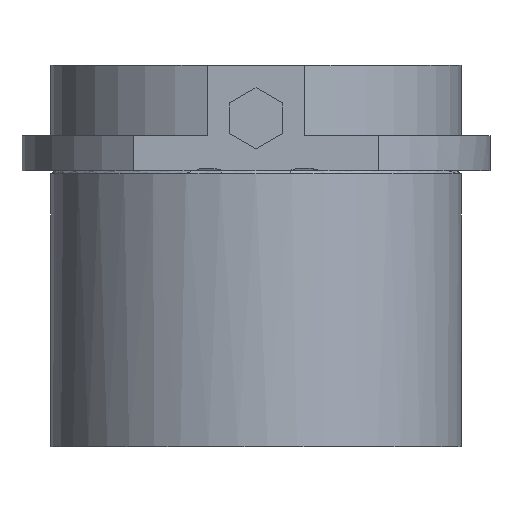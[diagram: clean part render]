
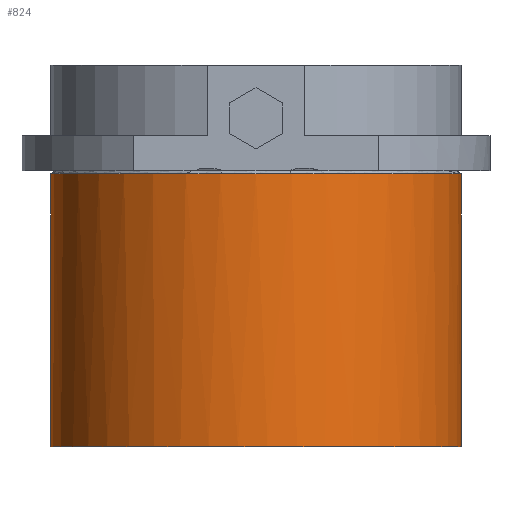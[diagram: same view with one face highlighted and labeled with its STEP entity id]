
A CAD part, front view. The second image highlights one B-rep face of the part: STEP entity #824.
In plain terms, the highlighted cylindrical face has radius 35 mm (diameter 70 mm), a partial arc.
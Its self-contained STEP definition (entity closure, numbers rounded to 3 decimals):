
#456=CARTESIAN_POINT('Control Point',(-35.,0.,-47.)) ;
#457=CARTESIAN_POINT('Control Point',(-35.,-3.188,-47.)) ;
#458=CARTESIAN_POINT('Control Point',(-34.637,-6.376,-47.)) ;
#459=CARTESIAN_POINT('Control Point',(-33.911,-9.509,-47.)) ;
#460=CARTESIAN_POINT('Control Point',(-31.758,-15.555,-47.)) ;
#461=CARTESIAN_POINT('Control Point',(-28.302,-20.962,-47.)) ;
#462=CARTESIAN_POINT('Control Point',(-26.272,-23.456,-47.)) ;
#463=CARTESIAN_POINT('Control Point',(-21.679,-27.938,-47.)) ;
#464=CARTESIAN_POINT('Control Point',(-16.197,-31.274,-47.)) ;
#465=CARTESIAN_POINT('Control Point',(-13.276,-32.621,-47.)) ;
#466=CARTESIAN_POINT('Control Point',(-7.18,-34.626,-47.)) ;
#467=CARTESIAN_POINT('Control Point',(-0.79,-35.21,-47.)) ;
#468=CARTESIAN_POINT('Control Point',(2.426,-35.135,-47.)) ;
#469=CARTESIAN_POINT('Control Point',(8.782,-34.255,-47.)) ;
#470=CARTESIAN_POINT('Control Point',(14.778,-31.968,-47.)) ;
#471=CARTESIAN_POINT('Control Point',(17.633,-30.487,-47.)) ;
#472=CARTESIAN_POINT('Control Point',(22.955,-26.9,-47.)) ;
#473=CARTESIAN_POINT('Control Point',(27.334,-22.209,-47.)) ;
#474=CARTESIAN_POINT('Control Point',(29.246,-19.623,-47.)) ;
#475=CARTESIAN_POINT('Control Point',(32.284,-14.345,-47.)) ;
#476=CARTESIAN_POINT('Control Point',(34.122,-8.548,-47.)) ;
#477=CARTESIAN_POINT('Control Point',(34.707,-5.725,-47.)) ;
#478=CARTESIAN_POINT('Control Point',(35.,-2.863,-47.)) ;
#479=CARTESIAN_POINT('Control Point',(35.,0.,-47.)) ;
#480=CARTESIAN_POINT('Vertex',(-35.,0.,-47.)) ;
#482=CARTESIAN_POINT('Vertex',(35.,0.,-47.)) ;
#794=CARTESIAN_POINT('Axis2P3D Location',(0.,0.,18.)) ;
#799=CARTESIAN_POINT('Line Origine',(35.,0.,18.)) ;
#803=CARTESIAN_POINT('Vertex',(35.,0.,-0.5)) ;
#806=CARTESIAN_POINT('Axis2P3D Location',(0.,0.,-0.5)) ;
#810=CARTESIAN_POINT('Vertex',(-35.,0.,-0.5)) ;
#813=CARTESIAN_POINT('Line Origine',(-35.,0.,18.)) ;
#795=DIRECTION('Axis2P3D Direction',(0.,0.,-1.)) ;
#796=DIRECTION('Axis2P3D XDirection',(1.,0.,0.)) ;
#800=DIRECTION('Vector Direction',(0.,0.,-1.)) ;
#807=DIRECTION('Axis2P3D Direction',(0.,0.,-1.)) ;
#814=DIRECTION('Vector Direction',(0.,0.,-1.)) ;
#797=AXIS2_PLACEMENT_3D('Cylinder Axis2P3D',#794,#795,#796) ;
#808=AXIS2_PLACEMENT_3D('Circle Axis2P3D',#806,#807,$) ;
#819=ORIENTED_EDGE('',*,*,#805,.T.) ;
#820=ORIENTED_EDGE('',*,*,#812,.F.) ;
#821=ORIENTED_EDGE('',*,*,#817,.T.) ;
#822=ORIENTED_EDGE('',*,*,#484,.T.) ;
#801=VECTOR('Line Direction',#800,1.) ;
#815=VECTOR('Line Direction',#814,1.) ;
#824=ADVANCED_FACE('740-48',(#823),#798,.T.) ;
#455=B_SPLINE_CURVE_WITH_KNOTS('',5,(#456,#457,#458,#459,#460,#461,#462,#463,#464,#465,#466,#467,#468,#469,#470,#471,#472,#473,#474,#475,#476,#477,#478,#479),.UNSPECIFIED.,.F.,.U.,(6,3,3,3,3,3,3,6),(0.,22.543,45.086,67.629,90.172,112.716,135.259,155.5),.UNSPECIFIED.) ;
#809=CIRCLE('generated circle',#808,35.) ;
#798=CYLINDRICAL_SURFACE('generated cylinder',#797,35.) ;
#484=EDGE_CURVE('',#481,#483,#455,.T.) ;
#805=EDGE_CURVE('',#483,#804,#802,.F.) ;
#812=EDGE_CURVE('',#811,#804,#809,.F.) ;
#817=EDGE_CURVE('',#811,#481,#816,.T.) ;
#818=EDGE_LOOP('',(#819,#820,#821,#822)) ;
#823=FACE_OUTER_BOUND('',#818,.T.) ;
#802=LINE('Line',#799,#801) ;
#816=LINE('Line',#813,#815) ;
#481=VERTEX_POINT('',#480) ;
#483=VERTEX_POINT('',#482) ;
#804=VERTEX_POINT('',#803) ;
#811=VERTEX_POINT('',#810) ;
